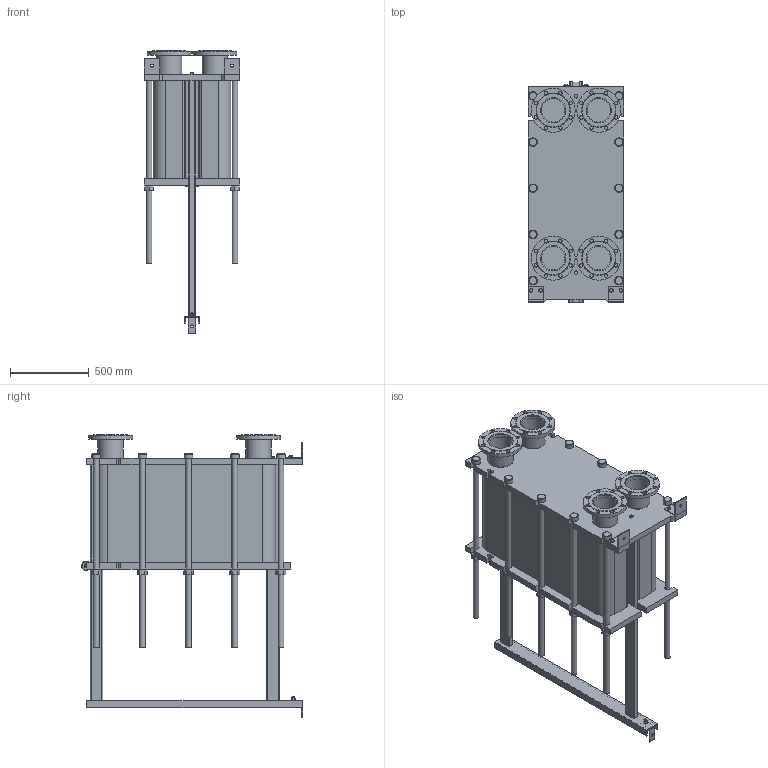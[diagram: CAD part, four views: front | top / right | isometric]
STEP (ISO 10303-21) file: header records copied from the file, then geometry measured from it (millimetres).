
FILE_DESCRIPTION(/* description */ (''),/* implementation_level */ '2;1');
FILE_NAME(/* name */ 'C:\Users\zhuro\Desktop\ENCO\TO\ЭН-041\ЭН-0,5-041-181-1.stp',/* time_stamp */ '2022-06-06T11:05:13+03:00',/* author */ ('zhuro'),/* organization */ (''),/* preprocessor_version */ 'ST-DEVELOPER v18.1',/* originating_system */ 'Autodesk Inventor 2022',/* authorisation */ '');
FILE_SCHEMA (('AUTOMOTIVE_DESIGN { 1 0 10303 214 3 1 1 }'));
Length unit declared in the file: millimetre
Products named in the file (1): ЭН-0,5-041-181-1
Bounding box: 610 x 1406.5 x 1797.5 mm (x, y, z)
Volume: 437379187.9 mm3; surface area: 10810494.7 mm2
Topology: 52 solids, 52 shells, 711 faces, 1696 edges, 1094 vertices
Faces by surface type: plane 487, cylinder 177, cone 41, torus 6
Full cylindrical faces by diameter (mm): 8 x4, 10 x2, 16 x8, 18 x3, 22 x32, 36 x24, 50 x1, 54 x10, 60 x12, 151 x4, 161 x8, 280 x4
Entity records: 22667 total; most frequent: CARTESIAN_POINT 5230, DIRECTION 3644, ORIENTED_EDGE 3392, EDGE_CURVE 1696, AXIS2_PLACEMENT_3D 1272, LINE 1100, VECTOR 1100, VERTEX_POINT 1094
